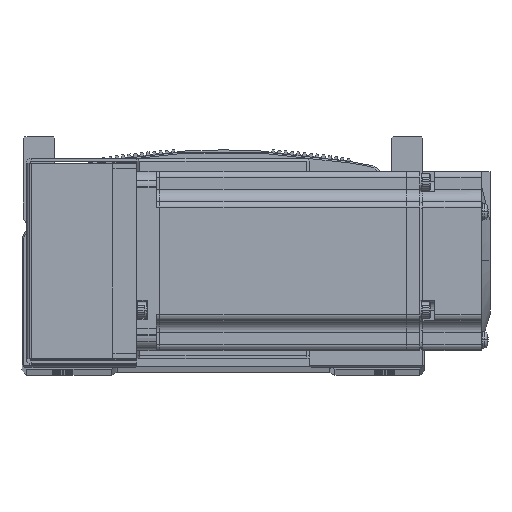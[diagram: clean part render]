
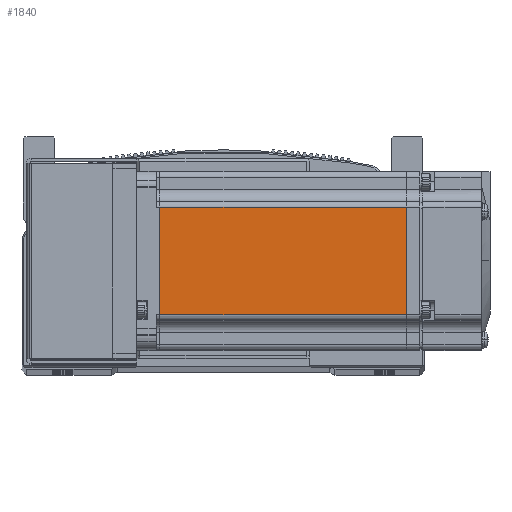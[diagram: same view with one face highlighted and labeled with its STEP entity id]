
A CAD part, top view. The second image highlights one B-rep face of the part: STEP entity #1840.
In plain terms, the highlighted planar face has unit normal (0, 0, 1) as drawn and (0, 0, -1) by its records, which use the part's own axes.
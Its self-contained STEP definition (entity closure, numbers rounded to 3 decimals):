
#886 = PLANE ( 'NONE',  #65640 ) ;
#887 = CARTESIAN_POINT ( 'NONE',  ( -6.5, 25., -30. ) ) ;
#912 = DIRECTION ( 'NONE',  ( -1., 0., 0. ) ) ;
#916 = DIRECTION ( 'NONE',  ( 0., 0., -1. ) ) ;
#1840 = ADVANCED_FACE ( 'NONE', ( #47827 ), #886, .T. ) ;
#15879 = LINE ( 'NONE', #23570, #15910 ) ;
#15910 = VECTOR ( 'NONE', #23553, 1000. ) ;
#23553 = DIRECTION ( 'NONE',  ( 1., 0., 0. ) ) ;
#23570 = CARTESIAN_POINT ( 'NONE',  ( -6.5, 18., -30. ) ) ;
#24841 = LINE ( 'NONE', #86515, #24844 ) ;
#24844 = VECTOR ( 'NONE', #86480, 1000. ) ;
#24848 = LINE ( 'NONE', #86486, #24853 ) ;
#24853 = VECTOR ( 'NONE', #86488, 1000. ) ;
#25000 = VECTOR ( 'NONE', #86418, 1000. ) ;
#25523 = LINE ( 'NONE', #86415, #25000 ) ;
#44030 = CARTESIAN_POINT ( 'NONE',  ( -90.45, 18., -30. ) ) ;
#44253 = CARTESIAN_POINT ( 'NONE',  ( -7.75, -18., -30. ) ) ;
#44275 = CARTESIAN_POINT ( 'NONE',  ( -90.45, -18., -30. ) ) ;
#44315 = CARTESIAN_POINT ( 'NONE',  ( -7.75, 18., -30. ) ) ;
#47827 = FACE_OUTER_BOUND ( 'NONE', #67369, .T. ) ;
#51591 = VERTEX_POINT ( 'NONE', #44030 ) ;
#51992 = VERTEX_POINT ( 'NONE', #44253 ) ;
#52025 = VERTEX_POINT ( 'NONE', #44275 ) ;
#52099 = VERTEX_POINT ( 'NONE', #44315 ) ;
#60049 = EDGE_CURVE ( 'NONE', #51992, #52025, #25523, .T. ) ;
#60129 = EDGE_CURVE ( 'NONE', #52099, #51992, #24841, .T. ) ;
#60136 = EDGE_CURVE ( 'NONE', #52025, #51591, #24848, .T. ) ;
#61001 = ORIENTED_EDGE ( 'NONE', *, *, #60049, .T. ) ;
#61090 = ORIENTED_EDGE ( 'NONE', *, *, #71989, .T. ) ;
#61092 = ORIENTED_EDGE ( 'NONE', *, *, #60129, .T. ) ;
#61107 = ORIENTED_EDGE ( 'NONE', *, *, #60136, .T. ) ;
#65640 = AXIS2_PLACEMENT_3D ( 'NONE', #887, #916, #912 ) ;
#67369 = EDGE_LOOP ( 'NONE', ( #61092, #61001, #61107, #61090 ) ) ;
#71989 = EDGE_CURVE ( 'NONE', #51591, #52099, #15879, .T. ) ;
#86415 = CARTESIAN_POINT ( 'NONE',  ( -6.5, -18., -30. ) ) ;
#86418 = DIRECTION ( 'NONE',  ( -1., 0., 0. ) ) ;
#86480 = DIRECTION ( 'NONE',  ( 0., -1., 0. ) ) ;
#86486 = CARTESIAN_POINT ( 'NONE',  ( -90.45, 25., -30. ) ) ;
#86488 = DIRECTION ( 'NONE',  ( 0., 1., 0. ) ) ;
#86515 = CARTESIAN_POINT ( 'NONE',  ( -7.75, 25., -30. ) ) ;
